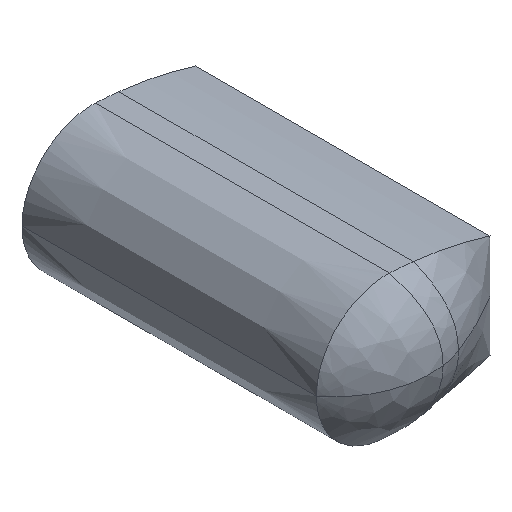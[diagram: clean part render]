
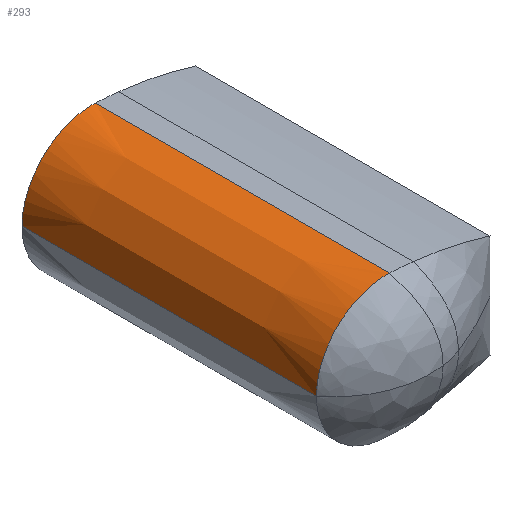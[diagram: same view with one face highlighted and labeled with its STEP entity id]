
A CAD part, isometric view. The second image highlights one B-rep face of the part: STEP entity #293.
In plain terms, the highlighted face is a extrusion surface.
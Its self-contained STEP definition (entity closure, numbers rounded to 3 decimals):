
#39=CARTESIAN_POINT('',(-4.429,7.,0.));
#45=CARTESIAN_POINT('',(-4.429,7.,0.));
#46=CARTESIAN_POINT('',(-4.429,7.,0.112));
#47=CARTESIAN_POINT('',(-4.405,7.,0.336));
#48=CARTESIAN_POINT('',(-4.269,7.,0.766));
#49=CARTESIAN_POINT('',(-3.941,7.,1.235));
#50=CARTESIAN_POINT('',(-3.362,7.,1.603));
#51=CARTESIAN_POINT('',(-2.909,7.,1.676));
#52=CARTESIAN_POINT('',(-2.686,7.,1.665));
#54=DIRECTION('',(0.,-1.,0.));
#55=VECTOR('',#54,7.);
#56=CARTESIAN_POINT('',(-2.686,7.,1.665));
#57=LINE('',#56,#55);
#58=DIRECTION('',(0.,1.,0.));
#59=VECTOR('',#58,7.);
#60=CARTESIAN_POINT('',(-4.429,0.,0.));
#61=LINE('',#60,#59);
#133=CARTESIAN_POINT('',(-4.429,0.,0.));
#144=CARTESIAN_POINT('',(-4.429,0.,0.));
#145=CARTESIAN_POINT('',(-4.429,0.,0.112));
#146=CARTESIAN_POINT('',(-4.405,0.,0.336));
#147=CARTESIAN_POINT('',(-4.269,0.,0.766));
#148=CARTESIAN_POINT('',(-3.941,0.,1.235));
#149=CARTESIAN_POINT('',(-3.362,0.,1.603));
#150=CARTESIAN_POINT('',(-2.909,0.,1.676));
#151=CARTESIAN_POINT('',(-2.686,0.,1.665));
#168=VERTEX_POINT('',#39);
#169=VERTEX_POINT('',#52);
#182=VERTEX_POINT('',#133);
#183=CARTESIAN_POINT('',(-2.686,0.,1.665));
#184=VERTEX_POINT('',#183);
#272=CARTESIAN_POINT('',(-2.686,7.,1.665));
#273=CARTESIAN_POINT('',(-2.909,7.,1.676));
#274=CARTESIAN_POINT('',(-3.362,7.,1.603));
#275=CARTESIAN_POINT('',(-3.941,7.,1.235));
#276=CARTESIAN_POINT('',(-4.269,7.,0.766));
#277=CARTESIAN_POINT('',(-4.405,7.,0.336));
#278=CARTESIAN_POINT('',(-4.429,7.,0.112));
#279=CARTESIAN_POINT('',(-4.429,7.,0.));
#281=DIRECTION('',(0.,-1.,0.));
#282=VECTOR('',#281,1.);
#283=SURFACE_OF_LINEAR_EXTRUSION('',#280,#282);
#285=ORIENTED_EDGE('',*,*,#284,.T.);
#287=ORIENTED_EDGE('',*,*,#286,.T.);
#289=ORIENTED_EDGE('',*,*,#288,.F.);
#290=ORIENTED_EDGE('',*,*,#264,.T.);
#291=EDGE_LOOP('',(#285,#287,#289,#290));
#292=FACE_OUTER_BOUND('',#291,.F.);
#293=ADVANCED_FACE('',(#292),#283,.T.);
#53=B_SPLINE_CURVE_WITH_KNOTS('',3,(#45,#46,#47,#48,#49,#50,#51,#52),
.UNSPECIFIED.,.F.,.F.,(4,1,1,1,1,4),(0.,0.125,0.25,0.5,0.75,1.),
.UNSPECIFIED.);
#152=B_SPLINE_CURVE_WITH_KNOTS('',3,(#144,#145,#146,#147,#148,#149,#150,#151),
.UNSPECIFIED.,.F.,.F.,(4,1,1,1,1,4),(0.,0.125,0.25,0.5,0.75,1.),
.UNSPECIFIED.);
#264=EDGE_CURVE('',#182,#168,#61,.T.);
#280=B_SPLINE_CURVE_WITH_KNOTS('',3,(#272,#273,#274,#275,#276,#277,#278,#279),
.UNSPECIFIED.,.F.,.F.,(4,1,1,1,1,4),(0.,0.25,0.5,0.75,0.875,1.),
.UNSPECIFIED.);
#284=EDGE_CURVE('',#168,#169,#53,.T.);
#286=EDGE_CURVE('',#169,#184,#57,.T.);
#288=EDGE_CURVE('',#182,#184,#152,.T.);
